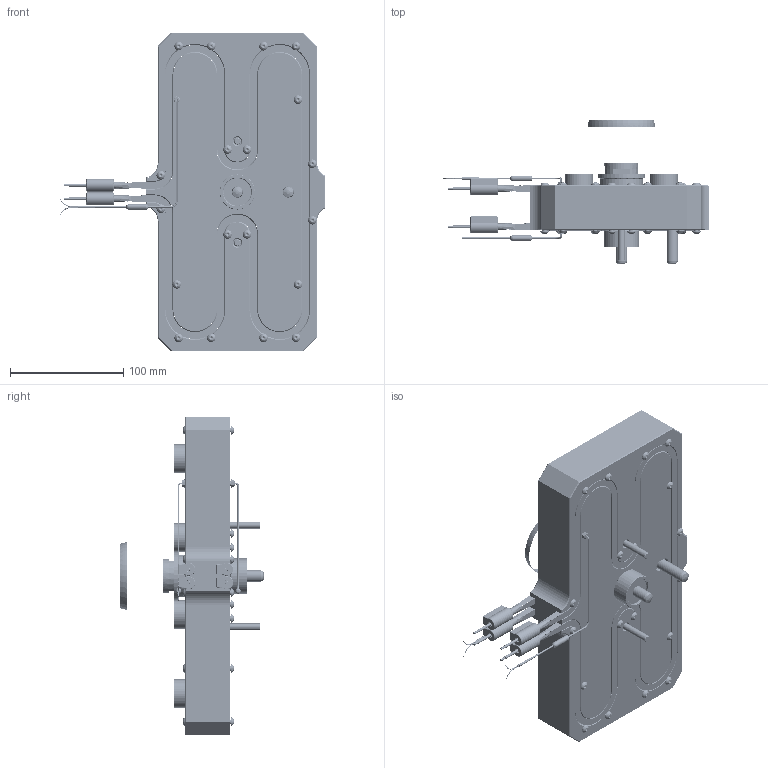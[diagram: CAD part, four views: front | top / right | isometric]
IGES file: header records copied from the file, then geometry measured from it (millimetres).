
Start section: SolidWorks IGES file using analytic representation for surfaces
Global section: file name: F:\CARTELLA CONDIVISA - 3D\01 - Piastre - 3D\Piastre Standard - Resistenza Sezione Quadrata 6x6\LP1-B08\Parte Multicorpo + Positivo Sede\CCLP1BQ-06T\CCLP1BQ-06T.IGS; native system: SolidWorks 2013; preprocessor: SolidWorks 2013; author: ws-20; date: 140131.084547; units: millimetre
Bounding box: 235.24 x 127.87 x 282 mm (x, y, z)
Surface area: 210977.7 mm2 (no closed solid volume)
Topology: 0 solids, 0 shells, 2644 faces, 27872 edges, 33856 vertices
Faces by surface type: bspline 1413, revolution 1231
